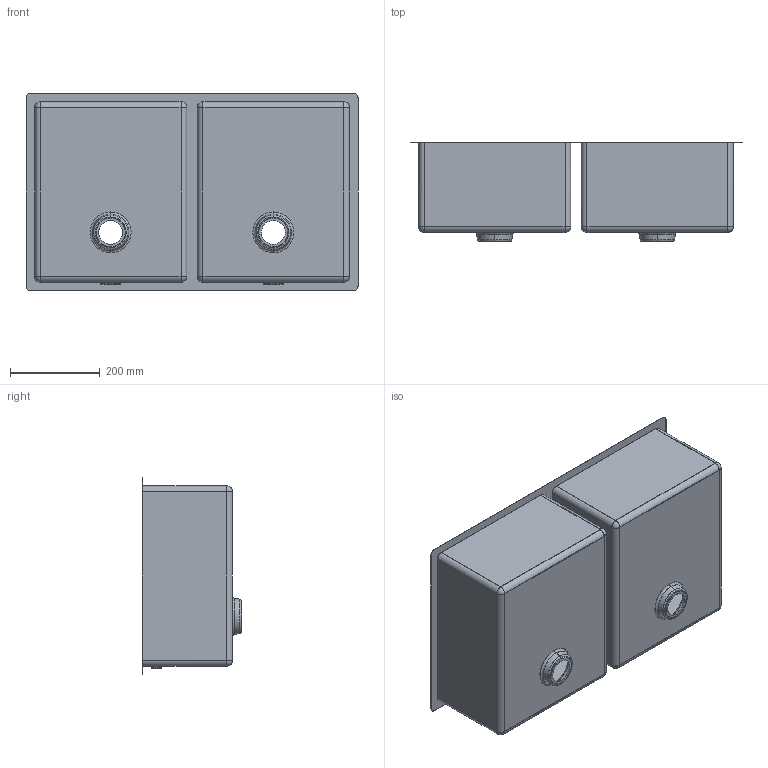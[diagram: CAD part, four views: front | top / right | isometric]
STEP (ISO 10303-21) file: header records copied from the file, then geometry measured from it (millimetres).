
FILE_DESCRIPTION(('CATIA V5 STEP Exchange'),'2;1');
FILE_NAME('C:\Users\domenico.natale\Desktop\Superlux\lavello7.stp','2021-01-29T13:15:31+00:00',('none'),('none'),'CATIA Version 5-6 Release 2014 SP6','CATIA V5 STEP AP203','none');
FILE_SCHEMA(('CONFIG_CONTROL_DESIGN'));
Length unit declared in the file: millimetre
Products named in the file (1): Matra - piletta integrata_74x44 2v SMEG
Bounding box: 740 x 221.9 x 440 mm (x, y, z)
Volume: 805797 mm3; surface area: 1793631.6 mm2
Topology: 1 solids, 1 shells, 230 faces, 640 edges, 392 vertices
Faces by surface type: plane 90, cylinder 68, cone 40, sphere 16, torus 16
Entity records: 8121 total; most frequent: CARTESIAN_POINT 2455, ORIENTED_EDGE 1248, DIRECTION 992, EDGE_CURVE 624, AXIS2_PLACEMENT_3D 411, VERTEX_POINT 392, VECTOR 352, LINE 352
